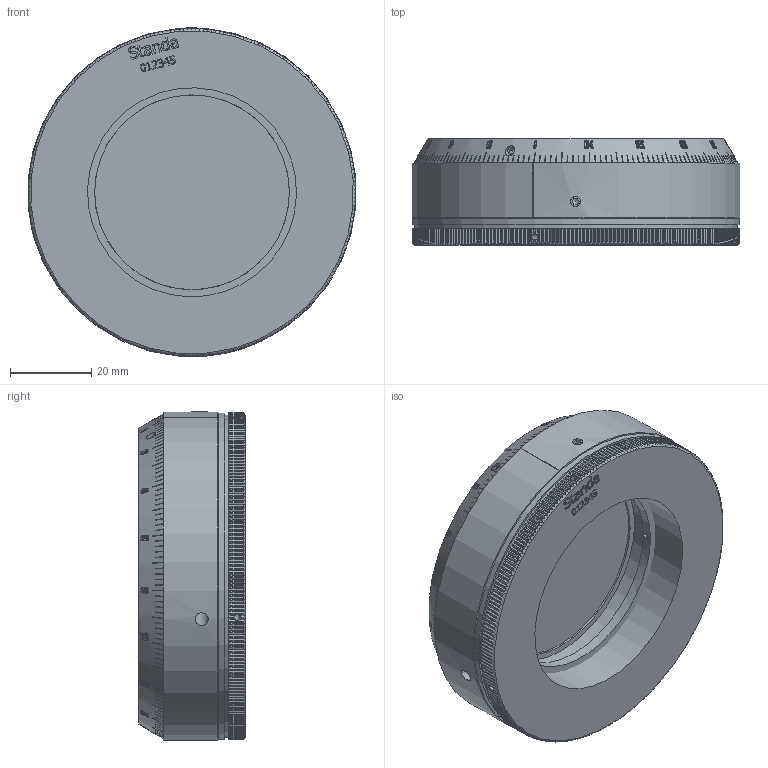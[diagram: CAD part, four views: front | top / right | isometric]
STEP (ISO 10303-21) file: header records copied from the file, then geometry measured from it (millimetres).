
FILE_DESCRIPTION(/* description */ (''),/* implementation_level */ '2;1');
FILE_NAME(/* name */ 'C:\Users\dsgn39.CENTRAS\Desktop\Internetui\5PH51-2\5PH51-2.stp',/* time_stamp */ '2021-05-19T14:12:53+03:00',/* author */ ('dsgn39'),/* organization */ (''),/* preprocessor_version */ 'ST-DEVELOPER v15.2',/* originating_system */ 'Autodesk Inventor 2014',/* authorisation */ '');
FILE_SCHEMA (('AUTOMOTIVE_DESIGN { 1 0 10303 214 3 1 1 }'));
Products named in the file (5): Part2; Part4; Part6; Part8; Assembly1
Bounding box: 80.71 x 26.2 x 80.86 mm (x, y, z)
Volume: 76256.6 mm3; surface area: 28375 mm2
Topology: 4 solids, 6 shells, 2708 faces, 7758 edges, 5174 vertices
Faces by surface type: plane 1323, bspline 812, cylinder 296, cone 277
Full cylindrical faces by diameter (mm): 1.567 x4, 2 x1, 2.459 x6, 3.242 x1, 4.917 x1, 48 x4, 51.1 x2, 51.5 x1, 53 x1, 54 x1, 61 x1, 62 x3, 77.9 x1, 78 x2, 79.6 x1, 80.6 x1
Entity records: 101642 total; most frequent: CARTESIAN_POINT 38660, ORIENTED_EDGE 15372, DIRECTION 9720, EDGE_CURVE 7685, VERTEX_POINT 5145, LINE 3934, VECTOR 3934, AXIS2_PLACEMENT_3D 2893
